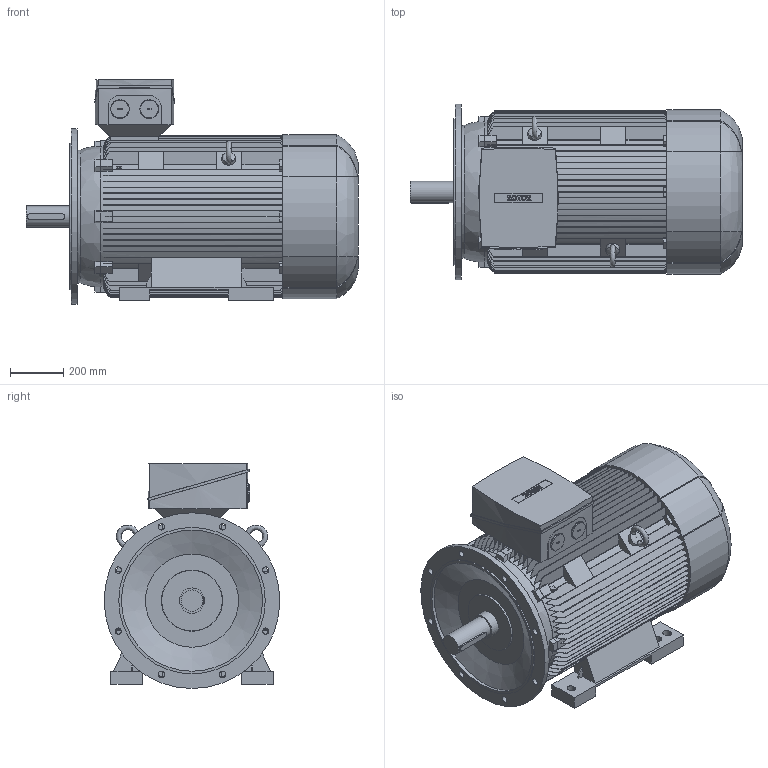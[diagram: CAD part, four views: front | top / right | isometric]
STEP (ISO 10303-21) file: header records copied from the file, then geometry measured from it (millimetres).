
FILE_DESCRIPTION (( 'STEP AP214' ), '1' );
FILE_NAME ('6RN315L04E14 IM2001.STEP', '2016-02-16T10:08:51', ( 'rotor' ), ( 'Hewlett-Packard Company' ), 'SwSTEP 2.0', 'SolidWorks 2012', '' );
FILE_SCHEMA (( 'AUTOMOTIVE_DESIGN' ));
Length unit declared in the file: millimetre
Products named in the file (1): 6RN315L04E14 IM2001
Bounding box: 1247 x 660 x 845 mm (x, y, z)
Volume: 284603739.8 mm3; surface area: 7704786 mm2
Topology: 1 solids, 1 shells, 1066 faces, 3062 edges, 2028 vertices
Faces by surface type: plane 681, bspline 216, cylinder 164, cone 5
Full cylindrical faces by diameter (mm): 5 x1, 24 x8, 50 x2, 70 x2, 80 x1, 95 x1, 500 x1, 530 x1, 550 x1, 660 x1
Entity records: 52340 total; most frequent: CARTESIAN_POINT 15431, ORIENTED_EDGE 6044, DIRECTION 4750, EDGE_CURVE 3022, VERTEX_POINT 2016, VECTOR 1826, LINE 1826, AXIS2_PLACEMENT_3D 1462
